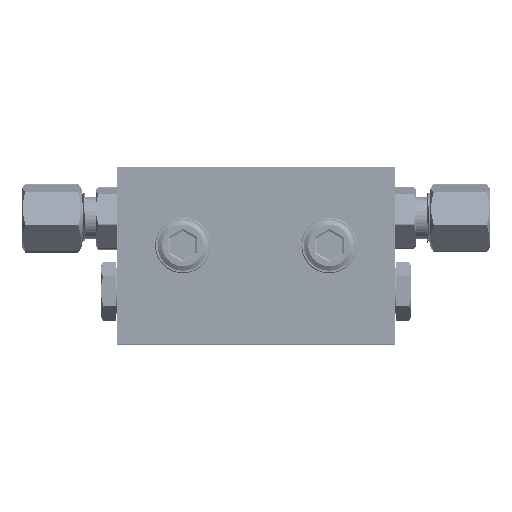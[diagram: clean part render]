
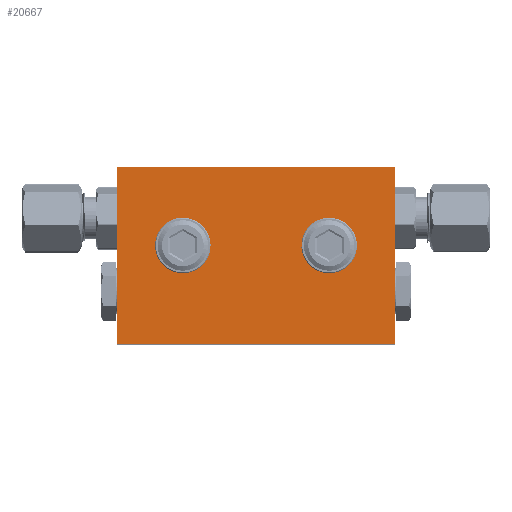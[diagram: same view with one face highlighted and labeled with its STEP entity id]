
A CAD part, top view. The second image highlights one B-rep face of the part: STEP entity #20667.
In plain terms, the highlighted planar face has unit normal (0, 0, 1) as drawn and (0, 0, -1) by its records, which use the part's own axes.
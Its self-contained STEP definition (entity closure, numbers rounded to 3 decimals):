
#174 = DIRECTION ( 'NONE',  ( 1., 0., 0. ) ) ;
#1502 = AXIS2_PLACEMENT_3D ( 'NONE', #12750, #16626, #12537 ) ;
#1626 = ORIENTED_EDGE ( 'NONE', *, *, #37288, .F. ) ;
#2104 = PLANE ( 'NONE',  #4584 ) ;
#2629 = EDGE_LOOP ( 'NONE', ( #36985 ) ) ;
#3063 = AXIS2_PLACEMENT_3D ( 'NONE', #27578, #27145, #174 ) ;
#3228 = LINE ( 'NONE', #16961, #20212 ) ;
#3876 = VERTEX_POINT ( 'NONE', #39229 ) ;
#4502 = DIRECTION ( 'NONE',  ( 1., 0., 0. ) ) ;
#4584 = AXIS2_PLACEMENT_3D ( 'NONE', #4950, #11321, #4502 ) ;
#4726 = FACE_OUTER_BOUND ( 'NONE', #23131, .T. ) ;
#4862 = EDGE_CURVE ( 'NONE', #24708, #24708, #21697, .T. ) ;
#4950 = CARTESIAN_POINT ( 'NONE',  ( 0., 0., -4.85 ) ) ;
#5155 = CIRCLE ( 'NONE', #3063, 3.1 ) ;
#5458 = VECTOR ( 'NONE', #39607, 1000. ) ;
#6075 = CARTESIAN_POINT ( 'NONE',  ( 27.5, 0., -4.85 ) ) ;
#7508 = CARTESIAN_POINT ( 'NONE',  ( 27.5, -35., -4.85 ) ) ;
#7996 = CARTESIAN_POINT ( 'NONE',  ( 11.4, -15.5, -4.85 ) ) ;
#8125 = VECTOR ( 'NONE', #33248, 1000. ) ;
#8886 = FACE_BOUND ( 'NONE', #35408, .T. ) ;
#11321 = DIRECTION ( 'NONE',  ( 0., 0., 1. ) ) ;
#12207 = ORIENTED_EDGE ( 'NONE', *, *, #17907, .F. ) ;
#12537 = DIRECTION ( 'NONE',  ( -1., 0., 0. ) ) ;
#12750 = CARTESIAN_POINT ( 'NONE',  ( 14.5, -15.5, -4.85 ) ) ;
#14766 = FACE_BOUND ( 'NONE', #2629, .T. ) ;
#15010 = ORIENTED_EDGE ( 'NONE', *, *, #24016, .F. ) ;
#16626 = DIRECTION ( 'NONE',  ( 0., 0., -1. ) ) ;
#16961 = CARTESIAN_POINT ( 'NONE',  ( -27.5, 0., -4.85 ) ) ;
#17907 = EDGE_CURVE ( 'NONE', #19687, #19687, #5155, .T. ) ;
#18863 = VERTEX_POINT ( 'NONE', #7508 ) ;
#19687 = VERTEX_POINT ( 'NONE', #29281 ) ;
#20212 = VECTOR ( 'NONE', #29562, 1000. ) ;
#20471 = CARTESIAN_POINT ( 'NONE',  ( -27.5, 0., -4.85 ) ) ;
#20667 = ADVANCED_FACE ( 'NONE', ( #8886, #14766, #4726 ), #2104, .F. ) ;
#20974 = EDGE_CURVE ( 'NONE', #18863, #37641, #29983, .T. ) ;
#21697 = CIRCLE ( 'NONE', #1502, 3.1 ) ;
#23131 = EDGE_LOOP ( 'NONE', ( #15010, #28281, #1626, #33979 ) ) ;
#24016 = EDGE_CURVE ( 'NONE', #3876, #18863, #32050, .T. ) ;
#24708 = VERTEX_POINT ( 'NONE', #7996 ) ;
#26300 = CARTESIAN_POINT ( 'NONE',  ( 0., 0., -4.85 ) ) ;
#26884 = DIRECTION ( 'NONE',  ( 1., 0., 0. ) ) ;
#27145 = DIRECTION ( 'NONE',  ( 0., 0., -1. ) ) ;
#27578 = CARTESIAN_POINT ( 'NONE',  ( -14.5, -15.5, -4.85 ) ) ;
#28281 = ORIENTED_EDGE ( 'NONE', *, *, #38918, .F. ) ;
#29281 = CARTESIAN_POINT ( 'NONE',  ( -11.4, -15.5, -4.85 ) ) ;
#29562 = DIRECTION ( 'NONE',  ( 0., -1., 0. ) ) ;
#29983 = LINE ( 'NONE', #36952, #8125 ) ;
#32050 = LINE ( 'NONE', #33665, #40402 ) ;
#32854 = LINE ( 'NONE', #26300, #5458 ) ;
#33248 = DIRECTION ( 'NONE',  ( 0., 1., 0. ) ) ;
#33665 = CARTESIAN_POINT ( 'NONE',  ( 0., -35., -4.85 ) ) ;
#33979 = ORIENTED_EDGE ( 'NONE', *, *, #20974, .F. ) ;
#35408 = EDGE_LOOP ( 'NONE', ( #12207 ) ) ;
#36004 = VERTEX_POINT ( 'NONE', #20471 ) ;
#36952 = CARTESIAN_POINT ( 'NONE',  ( 27.5, 0., -4.85 ) ) ;
#36985 = ORIENTED_EDGE ( 'NONE', *, *, #4862, .F. ) ;
#37288 = EDGE_CURVE ( 'NONE', #37641, #36004, #32854, .T. ) ;
#37641 = VERTEX_POINT ( 'NONE', #6075 ) ;
#38918 = EDGE_CURVE ( 'NONE', #36004, #3876, #3228, .T. ) ;
#39229 = CARTESIAN_POINT ( 'NONE',  ( -27.5, -35., -4.85 ) ) ;
#39607 = DIRECTION ( 'NONE',  ( -1., 0., 0. ) ) ;
#40402 = VECTOR ( 'NONE', #26884, 1000. ) ;
